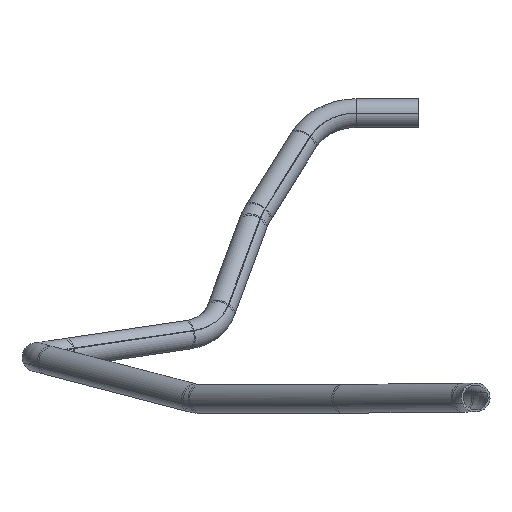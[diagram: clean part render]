
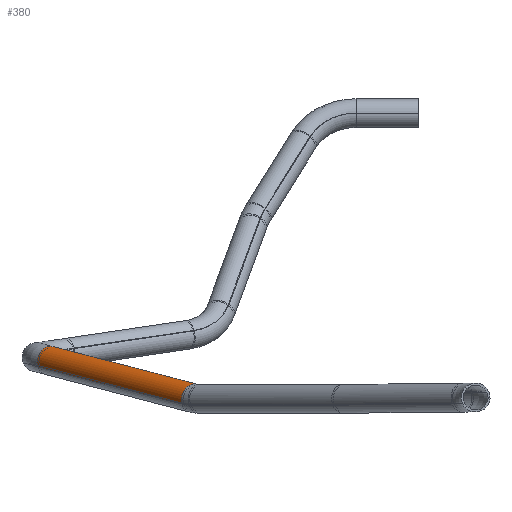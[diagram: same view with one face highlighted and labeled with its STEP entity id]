
A CAD part, front view. The second image highlights one B-rep face of the part: STEP entity #380.
In plain terms, the highlighted cylindrical face has radius 11 mm (diameter 22 mm), a partial arc.
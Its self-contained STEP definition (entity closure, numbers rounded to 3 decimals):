
#340=AXIS2_PLACEMENT_3D('Circle Axis2P3D',#338,#339,$) ;
#353=AXIS2_PLACEMENT_3D('Cylinder Axis2P3D',#350,#351,#352) ;
#371=AXIS2_PLACEMENT_3D('Circle Axis2P3D',#369,#370,$) ;
#328=CARTESIAN_POINT('Vertex',(-13132.198,640.01,314.234)) ;
#335=CARTESIAN_POINT('Vertex',(-13148.81,629.092,304.81)) ;
#338=CARTESIAN_POINT('Axis2P3D Location',(-13140.504,634.551,309.522)) ;
#350=CARTESIAN_POINT('Axis2P3D Location',(-13085.559,563.326,295.182)) ;
#355=CARTESIAN_POINT('Line Origine',(-13077.253,568.785,299.894)) ;
#359=CARTESIAN_POINT('Vertex',(-13022.308,497.561,285.555)) ;
#362=CARTESIAN_POINT('Line Origine',(-13093.866,557.867,290.471)) ;
#366=CARTESIAN_POINT('Vertex',(-13038.921,486.642,276.131)) ;
#369=CARTESIAN_POINT('Axis2P3D Location',(-13030.615,492.102,280.843)) ;
#339=DIRECTION('Axis2P3D Direction',(-0.603,0.782,0.157)) ;
#351=DIRECTION('Axis2P3D Direction',(0.603,-0.782,-0.157)) ;
#352=DIRECTION('Axis2P3D XDirection',(0.755,0.496,0.428)) ;
#356=DIRECTION('Vector Direction',(0.603,-0.782,-0.157)) ;
#363=DIRECTION('Vector Direction',(0.603,-0.782,-0.157)) ;
#370=DIRECTION('Axis2P3D Direction',(0.603,-0.782,-0.157)) ;
#357=VECTOR('Line Direction',#356,1.) ;
#364=VECTOR('Line Direction',#363,1.) ;
#375=ORIENTED_EDGE('',*,*,#361,.F.) ;
#376=ORIENTED_EDGE('',*,*,#342,.T.) ;
#377=ORIENTED_EDGE('',*,*,#368,.T.) ;
#378=ORIENTED_EDGE('',*,*,#373,.F.) ;
#380=ADVANCED_FACE('( + ) PartBody',(#379),#354,.T.) ;
#341=CIRCLE('generated circle',#340,11.) ;
#372=CIRCLE('generated circle',#371,11.) ;
#354=CYLINDRICAL_SURFACE('generated cylinder',#353,11.) ;
#342=EDGE_CURVE('',#329,#336,#341,.F.) ;
#361=EDGE_CURVE('',#329,#360,#358,.T.) ;
#368=EDGE_CURVE('',#336,#367,#365,.T.) ;
#373=EDGE_CURVE('',#360,#367,#372,.T.) ;
#374=EDGE_LOOP('',(#375,#376,#377,#378)) ;
#379=FACE_OUTER_BOUND('',#374,.T.) ;
#358=LINE('Line',#355,#357) ;
#365=LINE('Line',#362,#364) ;
#329=VERTEX_POINT('',#328) ;
#336=VERTEX_POINT('',#335) ;
#360=VERTEX_POINT('',#359) ;
#367=VERTEX_POINT('',#366) ;
